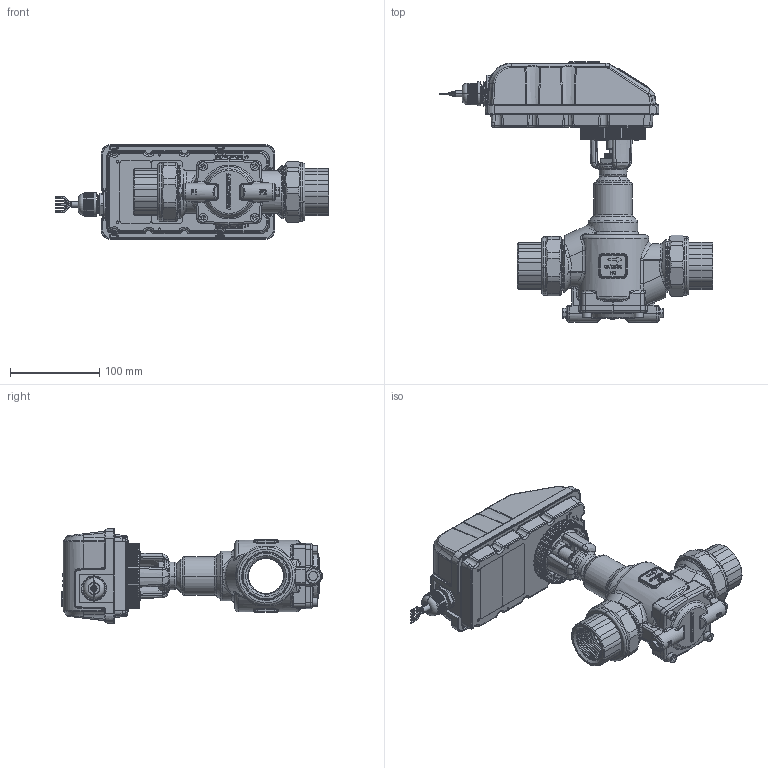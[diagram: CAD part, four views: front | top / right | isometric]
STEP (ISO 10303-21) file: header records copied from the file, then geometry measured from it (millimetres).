
FILE_DESCRIPTION (( 'STEP AP203' ), '1' );
FILE_NAME ('SM.2.1.P.3.P.P.I.STEP', '2025-09-23T13:07:33', ( '' ), ( '' ), 'SwSTEP 2.0', 'SolidWorks 2025', '' );
FILE_SCHEMA (( 'CONFIG_CONTROL_DESIGN' ));
Products named in the file (1): SM.2.1.P.3.P.P.I
Bounding box: 306.94 x 292.5 x 105.86 mm (x, y, z)
Surface area: 210112.9 mm2 (no closed solid volume)
Topology: 0 solids, 97 shells, 3188 faces, 9481 edges, 6168 vertices
Faces by surface type: cylinder 1008, plane 673, bspline 671, cone 425, torus 318, sphere 93
Entity records: 140938 total; most frequent: CARTESIAN_POINT 64791, ORIENTED_EDGE 16178, DIRECTION 14227, EDGE_CURVE 9370, VERTEX_POINT 6164, AXIS2_PLACEMENT_3D 5565, EDGE_LOOP 3347, ADVANCED_FACE 3188
